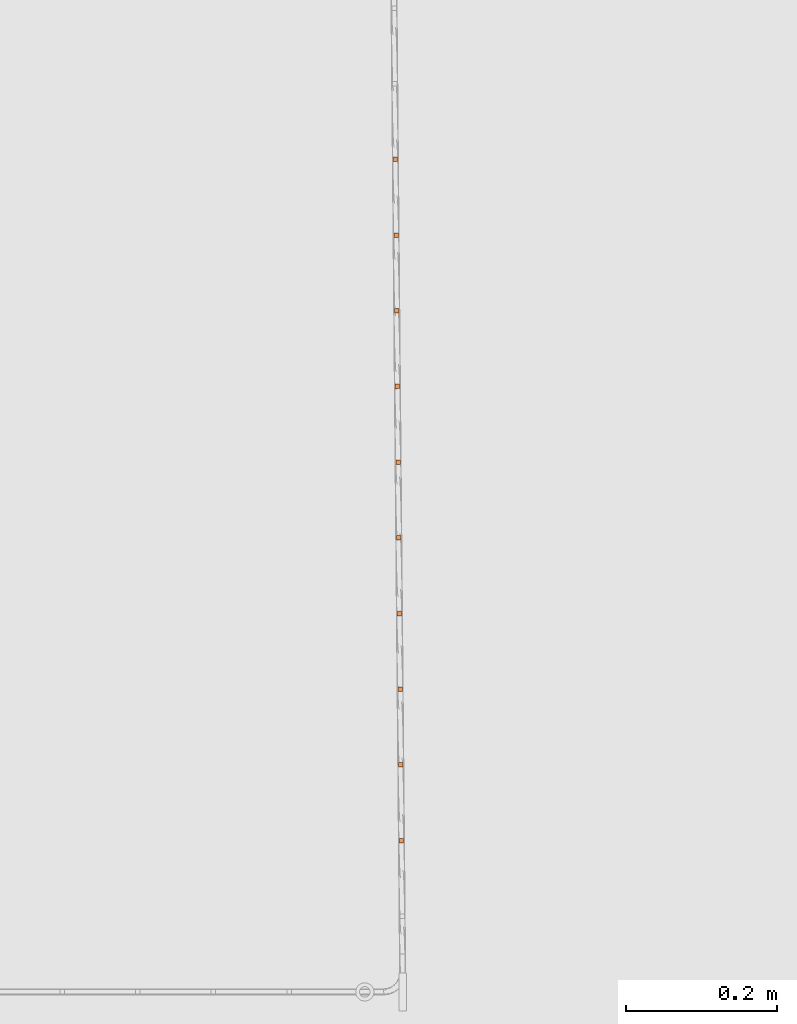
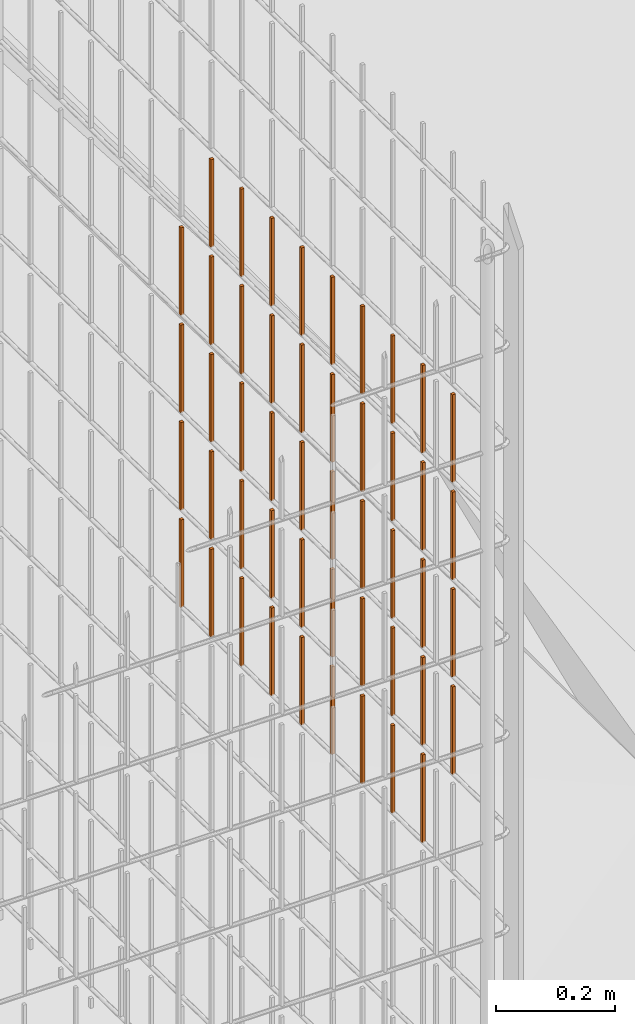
# One storey, part 257 of 1809: 48 proxies, 1 element without a shape of its own.
"""IFC2X3 building model written with IfcOpenShell, lengths in millimetres."""

from ifc_helpers import new_model, entity, si_unit, converted_unit, derived_unit, money_unit, direction, frame, origin_with_axes, place, context, subcontext, project, spatial, faceted_brep, source, transform, mapped, material, type_object, element, aggregate, save


model = new_model("IFC2X3")

# Units and contexts
model_context = context("Model", 3, precision=0.01, world=origin_with_axes(), true_north=direction((0.0, 1.0)))
body_context = subcontext(model_context, "Body", "Model", "MODEL_VIEW")
ifc_project = project(units=[si_unit("LENGTHUNIT", "METRE", prefix="MILLI"), si_unit("AREAUNIT", "SQUARE_METRE"), si_unit("VOLUMEUNIT", "CUBIC_METRE"), converted_unit("PLANEANGLEUNIT", "DEGREE", entity("IfcPlaneAngleMeasure", 0.0174532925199), si_unit("PLANEANGLEUNIT", "RADIAN"), dimensions=[0, 0, 0, 0, 0, 0, 0]), si_unit("SOLIDANGLEUNIT", "STERADIAN"), money_unit("EUR"), converted_unit("TIMEUNIT", "Year", entity("IfcTimeMeasure", 31556926.0), si_unit("TIMEUNIT", "SECOND"), dimensions=[0, 0, 1, 0, 0, 0, 0]), si_unit("MASSUNIT", "GRAM", prefix="KILO"), si_unit("THERMODYNAMICTEMPERATUREUNIT", "DEGREE_CELSIUS"), si_unit("LUMINOUSINTENSITYUNIT", "LUMEN"), si_unit("ENERGYUNIT", "JOULE", prefix="MEGA"), derived_unit("THERMALCONDUCTANCEUNIT", [(si_unit("POWERUNIT", "WATT"), 1), (si_unit("LENGTHUNIT", "METRE"), -1), (si_unit("THERMODYNAMICTEMPERATUREUNIT", "KELVIN"), -1)]), derived_unit("SPECIFICHEATCAPACITYUNIT", [(si_unit("ENERGYUNIT", "JOULE"), 1), (si_unit("MASSUNIT", "GRAM", prefix="KILO"), -1), (si_unit("THERMODYNAMICTEMPERATUREUNIT", "KELVIN"), -1)]), derived_unit("MASSDENSITYUNIT", [(si_unit("MASSUNIT", "GRAM", prefix="KILO"), 1), (si_unit("VOLUMEUNIT", "CUBIC_METRE"), -1)])], contexts=[model_context])

# Site, building, storey
site_placement = place(None, origin_with_axes())
site = spatial("IfcSite", under=ifc_project, at=site_placement, Name="Politse- ja Piirivalveameti ning Päästeameti ühishoone", CompositionType="ELEMENT")
building_placement = place(site_placement, origin_with_axes())
building = spatial("IfcBuilding", under=site, at=building_placement, Name="Politse- ja Piirivalveameti ning Päästeameti ühishoone", CompositionType="ELEMENT")
storey_placement = place(building_placement, origin_with_axes())
storey = spatial("IfcBuildingStorey", under=building, at=storey_placement, Name="Esimene korrus", CompositionType="ELEMENT", Elevation=0.0)

# Proxies
building_element_proxy_type_1 = type_object("IfcBuildingElementProxyType", Name="Railing Type", PredefinedType="NOTDEFINED")
proxy_1_placement = place(storey_placement, frame((-16775.8601056, 25156.7555964, 0.0), z_axis=(0.0, 0.0, 1.0), x_axis=(1.0, 0.0, 0.0)))
proxy_1 = element("IfcBuildingElementProxy", 1, at=proxy_1_placement, inside=storey, type_object=building_element_proxy_type_1, Name="KENNELI PIIRE")
ifc_material = material(Name="Teras - Konstruktsioon")
building_element_proxy_type_2 = type_object("IfcBuildingElementProxyType", Name="IfcBuildingElementProxy", PredefinedType="NOTDEFINED")
shared_shape_1 = source(origin_with_axes(), body_context, "Body", "Brep", [
    faceted_brep([(3.0, 3.0, 0.0), (-3.0, 3.0, 0.0), (-3.0, 3.0, 180.000012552), (3.0, 3.0, 180.000012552), (3.0, -3.0, 0.0), (-3.0, -3.0, 0.0), (-3.0, -3.0, 180.000012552), (3.0, -3.0, 180.000012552)], [[[0, 1, 2, 3]], [[0, 4, 5, 1]], [[1, 5, 6, 2]], [[3, 2, 6, 7]], [[4, 0, 3, 7]], [[5, 4, 7, 6]]]),
])
proxy_2_placement = place(proxy_1_placement, frame((165.264833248, -15768.8521472, 1003.99998745), z_axis=(0.0, 0.0, 1.0), x_axis=(1.0, 0.0, 0.0)))
proxy_2 = element("IfcBuildingElementProxy", 2, at=proxy_2_placement, type_object=building_element_proxy_type_2, material=ifc_material, Name="BALUSTER - 001", context=body_context, shape_type="MappedRepresentation", body=[
    mapped(shared_shape_1, transform((0.0, 0.0, 0.0), x_axis=(0.999960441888, 0.00889464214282, 0.0), y_axis=(-0.00889464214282, 0.999960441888, 0.0), z_axis=(0.0, 0.0, 1.0))),
])
proxy_3_placement = place(proxy_1_placement, frame((164.375369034, -15668.856103, 1003.99998745), z_axis=(0.0, 0.0, 1.0), x_axis=(1.0, 0.0, 0.0)))
proxy_3 = element("IfcBuildingElementProxy", 3, at=proxy_3_placement, type_object=building_element_proxy_type_2, material=ifc_material, Name="BALUSTER - 001", context=body_context, shape_type="MappedRepresentation", body=[
    mapped(shared_shape_1, transform((0.0, 0.0, 0.0), x_axis=(0.999960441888, 0.00889464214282, 0.0), y_axis=(-0.00889464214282, 0.999960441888, 0.0), z_axis=(0.0, 0.0, 1.0))),
])
proxy_4_placement = place(proxy_1_placement, frame((163.48590482, -15568.8600589, 1003.99998745), z_axis=(0.0, 0.0, 1.0), x_axis=(1.0, 0.0, 0.0)))
proxy_4 = element("IfcBuildingElementProxy", 4, at=proxy_4_placement, type_object=building_element_proxy_type_2, material=ifc_material, Name="BALUSTER - 001", context=body_context, shape_type="MappedRepresentation", body=[
    mapped(shared_shape_1, transform((0.0, 0.0, 0.0), x_axis=(0.999960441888, 0.00889464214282, 0.0), y_axis=(-0.00889464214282, 0.999960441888, 0.0), z_axis=(0.0, 0.0, 1.0))),
])
proxy_5_placement = place(proxy_1_placement, frame((162.596440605, -15468.8640147, 1003.99998745), z_axis=(0.0, 0.0, 1.0), x_axis=(1.0, 0.0, 0.0)))
proxy_5 = element("IfcBuildingElementProxy", 5, at=proxy_5_placement, type_object=building_element_proxy_type_2, material=ifc_material, Name="BALUSTER - 001", context=body_context, shape_type="MappedRepresentation", body=[
    mapped(shared_shape_1, transform((0.0, 0.0, 0.0), x_axis=(0.999960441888, 0.00889464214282, 0.0), y_axis=(-0.00889464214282, 0.999960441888, 0.0), z_axis=(0.0, 0.0, 1.0))),
])
proxy_6_placement = place(proxy_1_placement, frame((161.706976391, -15368.8679705, 1003.99998745), z_axis=(0.0, 0.0, 1.0), x_axis=(1.0, 0.0, 0.0)))
proxy_6 = element("IfcBuildingElementProxy", 6, at=proxy_6_placement, type_object=building_element_proxy_type_2, material=ifc_material, Name="BALUSTER - 001", context=body_context, shape_type="MappedRepresentation", body=[
    mapped(shared_shape_1, transform((0.0, 0.0, 0.0), x_axis=(0.999960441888, 0.00889464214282, 0.0), y_axis=(-0.00889464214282, 0.999960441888, 0.0), z_axis=(0.0, 0.0, 1.0))),
])
proxy_7_placement = place(proxy_1_placement, frame((160.817512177, -15268.8719263, 1003.99998745), z_axis=(0.0, 0.0, 1.0), x_axis=(1.0, 0.0, 0.0)))
proxy_7 = element("IfcBuildingElementProxy", 7, at=proxy_7_placement, type_object=building_element_proxy_type_2, material=ifc_material, Name="BALUSTER - 001", context=body_context, shape_type="MappedRepresentation", body=[
    mapped(shared_shape_1, transform((0.0, 0.0, 0.0), x_axis=(0.999960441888, 0.00889464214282, 0.0), y_axis=(-0.00889464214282, 0.999960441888, 0.0), z_axis=(0.0, 0.0, 1.0))),
])
proxy_8_placement = place(proxy_1_placement, frame((159.928047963, -15168.8758821, 1003.99998745), z_axis=(0.0, 0.0, 1.0), x_axis=(1.0, 0.0, 0.0)))
proxy_8 = element("IfcBuildingElementProxy", 8, at=proxy_8_placement, type_object=building_element_proxy_type_2, material=ifc_material, Name="BALUSTER - 001", context=body_context, shape_type="MappedRepresentation", body=[
    mapped(shared_shape_1, transform((0.0, 0.0, 0.0), x_axis=(0.999960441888, 0.00889464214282, 0.0), y_axis=(-0.00889464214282, 0.999960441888, 0.0), z_axis=(0.0, 0.0, 1.0))),
])
proxy_9_placement = place(proxy_1_placement, frame((159.038583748, -15068.8798379, 1003.99998745), z_axis=(0.0, 0.0, 1.0), x_axis=(1.0, 0.0, 0.0)))
proxy_9 = element("IfcBuildingElementProxy", 9, at=proxy_9_placement, type_object=building_element_proxy_type_2, material=ifc_material, Name="BALUSTER - 001", context=body_context, shape_type="MappedRepresentation", body=[
    mapped(shared_shape_1, transform((0.0, 0.0, 0.0), x_axis=(0.999960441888, 0.00889464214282, 0.0), y_axis=(-0.00889464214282, 0.999960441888, 0.0), z_axis=(0.0, 0.0, 1.0))),
])
proxy_10_placement = place(proxy_1_placement, frame((158.149119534, -14968.8837937, 1003.99998745), z_axis=(0.0, 0.0, 1.0), x_axis=(1.0, 0.0, 0.0)))
proxy_10 = element("IfcBuildingElementProxy", 10, at=proxy_10_placement, type_object=building_element_proxy_type_2, material=ifc_material, Name="BALUSTER - 001", context=body_context, shape_type="MappedRepresentation", body=[
    mapped(shared_shape_1, transform((0.0, 0.0, 0.0), x_axis=(0.999960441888, 0.00889464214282, 0.0), y_axis=(-0.00889464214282, 0.999960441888, 0.0), z_axis=(0.0, 0.0, 1.0))),
])
proxy_11_placement = place(proxy_1_placement, frame((159.928047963, -15168.8758821, 1203.99998745), z_axis=(0.0, 0.0, 1.0), x_axis=(1.0, 0.0, 0.0)))
proxy_11 = element("IfcBuildingElementProxy", 11, at=proxy_11_placement, type_object=building_element_proxy_type_2, material=ifc_material, Name="BALUSTER - 001", context=body_context, shape_type="MappedRepresentation", body=[
    mapped(shared_shape_1, transform((0.0, 0.0, 0.0), x_axis=(0.999960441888, 0.00889464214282, 0.0), y_axis=(-0.00889464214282, 0.999960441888, 0.0), z_axis=(0.0, 0.0, 1.0))),
])
proxy_12_placement = place(proxy_1_placement, frame((158.149119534, -14968.8837937, 1203.99998745), z_axis=(0.0, 0.0, 1.0), x_axis=(1.0, 0.0, 0.0)))
proxy_12 = element("IfcBuildingElementProxy", 12, at=proxy_12_placement, type_object=building_element_proxy_type_2, material=ifc_material, Name="BALUSTER - 001", context=body_context, shape_type="MappedRepresentation", body=[
    mapped(shared_shape_1, transform((0.0, 0.0, 0.0), x_axis=(0.999960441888, 0.00889464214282, 0.0), y_axis=(-0.00889464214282, 0.999960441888, 0.0), z_axis=(0.0, 0.0, 1.0))),
])
proxy_13_placement = place(proxy_1_placement, frame((160.817512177, -15268.8719263, 1603.99998745), z_axis=(0.0, 0.0, 1.0), x_axis=(1.0, 0.0, 0.0)))
proxy_13 = element("IfcBuildingElementProxy", 13, at=proxy_13_placement, type_object=building_element_proxy_type_2, material=ifc_material, Name="BALUSTER - 001", context=body_context, shape_type="MappedRepresentation", body=[
    mapped(shared_shape_1, transform((0.0, 0.0, 0.0), x_axis=(0.999960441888, 0.00889464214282, 0.0), y_axis=(-0.00889464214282, 0.999960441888, 0.0), z_axis=(0.0, 0.0, 1.0))),
])
proxy_14_placement = place(proxy_1_placement, frame((159.038583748, -15068.8798379, 1603.99998745), z_axis=(0.0, 0.0, 1.0), x_axis=(1.0, 0.0, 0.0)))
proxy_14 = element("IfcBuildingElementProxy", 14, at=proxy_14_placement, type_object=building_element_proxy_type_2, material=ifc_material, Name="BALUSTER - 001", context=body_context, shape_type="MappedRepresentation", body=[
    mapped(shared_shape_1, transform((0.0, 0.0, 0.0), x_axis=(0.999960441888, 0.00889464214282, 0.0), y_axis=(-0.00889464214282, 0.999960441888, 0.0), z_axis=(0.0, 0.0, 1.0))),
])
shared_shape_2 = source(origin_with_axes(), body_context, "Body", "Brep", [
    faceted_brep([(3.0, 3.0, 0.0), (-3.0, 3.0, 0.0), (-3.0, 3.0, 180.000012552), (3.0, 3.0, 180.000012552), (3.0, -3.0, 0.0), (-3.0, -3.0, 0.0), (-3.0, -3.0, 180.000012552), (3.0, -3.0, 180.000012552)], [[[0, 1, 2, 3]], [[0, 4, 5, 1]], [[1, 5, 6, 2]], [[3, 2, 6, 7]], [[4, 0, 3, 7]], [[5, 4, 7, 6]]]),
])
proxy_15_placement = place(proxy_1_placement, frame((165.264833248, -15768.8521472, 1803.99998745), z_axis=(0.0, 0.0, 1.0), x_axis=(1.0, 0.0, 0.0)))
proxy_15 = element("IfcBuildingElementProxy", 15, at=proxy_15_placement, type_object=building_element_proxy_type_2, material=ifc_material, Name="BALUSTER - 001", context=body_context, shape_type="MappedRepresentation", body=[
    mapped(shared_shape_2, transform((0.0, 0.0, 0.0), x_axis=(0.999960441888, 0.00889464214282, 0.0), y_axis=(-0.00889464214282, 0.999960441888, 0.0), z_axis=(0.0, 0.0, 1.0))),
])
proxy_16_placement = place(proxy_1_placement, frame((164.375369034, -15668.856103, 1803.99998745), z_axis=(0.0, 0.0, 1.0), x_axis=(1.0, 0.0, 0.0)))
proxy_16 = element("IfcBuildingElementProxy", 16, at=proxy_16_placement, type_object=building_element_proxy_type_2, material=ifc_material, Name="BALUSTER - 001", context=body_context, shape_type="MappedRepresentation", body=[
    mapped(shared_shape_2, transform((0.0, 0.0, 0.0), x_axis=(0.999960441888, 0.00889464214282, 0.0), y_axis=(-0.00889464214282, 0.999960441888, 0.0), z_axis=(0.0, 0.0, 1.0))),
])
proxy_17_placement = place(proxy_1_placement, frame((163.48590482, -15568.8600589, 1803.99998745), z_axis=(0.0, 0.0, 1.0), x_axis=(1.0, 0.0, 0.0)))
proxy_17 = element("IfcBuildingElementProxy", 17, at=proxy_17_placement, type_object=building_element_proxy_type_2, material=ifc_material, Name="BALUSTER - 001", context=body_context, shape_type="MappedRepresentation", body=[
    mapped(shared_shape_2, transform((0.0, 0.0, 0.0), x_axis=(0.999960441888, 0.00889464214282, 0.0), y_axis=(-0.00889464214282, 0.999960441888, 0.0), z_axis=(0.0, 0.0, 1.0))),
])
proxy_18_placement = place(proxy_1_placement, frame((162.596440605, -15468.8640147, 1803.99998745), z_axis=(0.0, 0.0, 1.0), x_axis=(1.0, 0.0, 0.0)))
proxy_18 = element("IfcBuildingElementProxy", 18, at=proxy_18_placement, type_object=building_element_proxy_type_2, material=ifc_material, Name="BALUSTER - 001", context=body_context, shape_type="MappedRepresentation", body=[
    mapped(shared_shape_2, transform((0.0, 0.0, 0.0), x_axis=(0.999960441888, 0.00889464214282, 0.0), y_axis=(-0.00889464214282, 0.999960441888, 0.0), z_axis=(0.0, 0.0, 1.0))),
])
shared_shape_3 = source(origin_with_axes(), body_context, "Body", "Brep", [
    faceted_brep([(3.0, 3.0, 0.0), (-3.0, 3.0, 0.0), (-3.0, 3.0, 180.000012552), (3.0, 3.0, 180.000012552), (3.0, -3.0, 0.0), (-3.0, -3.0, 0.0), (-3.0, -3.0, 180.000012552), (3.0, -3.0, 180.000012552)], [[[0, 1, 2, 3]], [[0, 4, 5, 1]], [[1, 5, 6, 2]], [[3, 2, 6, 7]], [[4, 0, 3, 7]], [[5, 4, 7, 6]]]),
])
proxy_19_placement = place(proxy_1_placement, frame((166.154297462, -15868.8481914, 1403.99998745), z_axis=(0.0, 0.0, 1.0), x_axis=(1.0, 0.0, 0.0)))
proxy_19 = element("IfcBuildingElementProxy", 19, at=proxy_19_placement, type_object=building_element_proxy_type_2, material=ifc_material, Name="BALUSTER - 001", context=body_context, shape_type="MappedRepresentation", body=[
    mapped(shared_shape_3, transform((0.0, 0.0, 0.0), x_axis=(0.999960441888, 0.00889464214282, 0.0), y_axis=(-0.00889464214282, 0.999960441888, 0.0), z_axis=(0.0, 0.0, 1.0))),
])
proxy_20_placement = place(proxy_1_placement, frame((165.264833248, -15768.8521472, 1403.99998745), z_axis=(0.0, 0.0, 1.0), x_axis=(1.0, 0.0, 0.0)))
proxy_20 = element("IfcBuildingElementProxy", 20, at=proxy_20_placement, type_object=building_element_proxy_type_2, material=ifc_material, Name="BALUSTER - 001", context=body_context, shape_type="MappedRepresentation", body=[
    mapped(shared_shape_3, transform((0.0, 0.0, 0.0), x_axis=(0.999960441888, 0.00889464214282, 0.0), y_axis=(-0.00889464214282, 0.999960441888, 0.0), z_axis=(0.0, 0.0, 1.0))),
])
proxy_21_placement = place(proxy_1_placement, frame((164.375369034, -15668.856103, 1403.99998745), z_axis=(0.0, 0.0, 1.0), x_axis=(1.0, 0.0, 0.0)))
proxy_21 = element("IfcBuildingElementProxy", 21, at=proxy_21_placement, type_object=building_element_proxy_type_2, material=ifc_material, Name="BALUSTER - 001", context=body_context, shape_type="MappedRepresentation", body=[
    mapped(shared_shape_3, transform((0.0, 0.0, 0.0), x_axis=(0.999960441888, 0.00889464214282, 0.0), y_axis=(-0.00889464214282, 0.999960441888, 0.0), z_axis=(0.0, 0.0, 1.0))),
])
proxy_22_placement = place(proxy_1_placement, frame((163.48590482, -15568.8600589, 1403.99998745), z_axis=(0.0, 0.0, 1.0), x_axis=(1.0, 0.0, 0.0)))
proxy_22 = element("IfcBuildingElementProxy", 22, at=proxy_22_placement, type_object=building_element_proxy_type_2, material=ifc_material, Name="BALUSTER - 001", context=body_context, shape_type="MappedRepresentation", body=[
    mapped(shared_shape_3, transform((0.0, 0.0, 0.0), x_axis=(0.999960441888, 0.00889464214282, 0.0), y_axis=(-0.00889464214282, 0.999960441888, 0.0), z_axis=(0.0, 0.0, 1.0))),
])
proxy_23_placement = place(proxy_1_placement, frame((162.596440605, -15468.8640147, 1403.99998745), z_axis=(0.0, 0.0, 1.0), x_axis=(1.0, 0.0, 0.0)))
proxy_23 = element("IfcBuildingElementProxy", 23, at=proxy_23_placement, type_object=building_element_proxy_type_2, material=ifc_material, Name="BALUSTER - 001", context=body_context, shape_type="MappedRepresentation", body=[
    mapped(shared_shape_3, transform((0.0, 0.0, 0.0), x_axis=(0.999960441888, 0.00889464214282, 0.0), y_axis=(-0.00889464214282, 0.999960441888, 0.0), z_axis=(0.0, 0.0, 1.0))),
])
proxy_24_placement = place(proxy_1_placement, frame((161.706976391, -15368.8679705, 1403.99998745), z_axis=(0.0, 0.0, 1.0), x_axis=(1.0, 0.0, 0.0)))
proxy_24 = element("IfcBuildingElementProxy", 24, at=proxy_24_placement, type_object=building_element_proxy_type_2, material=ifc_material, Name="BALUSTER - 001", context=body_context, shape_type="MappedRepresentation", body=[
    mapped(shared_shape_3, transform((0.0, 0.0, 0.0), x_axis=(0.999960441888, 0.00889464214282, 0.0), y_axis=(-0.00889464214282, 0.999960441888, 0.0), z_axis=(0.0, 0.0, 1.0))),
])
proxy_25_placement = place(proxy_1_placement, frame((160.817512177, -15268.8719263, 1403.99998745), z_axis=(0.0, 0.0, 1.0), x_axis=(1.0, 0.0, 0.0)))
proxy_25 = element("IfcBuildingElementProxy", 25, at=proxy_25_placement, type_object=building_element_proxy_type_2, material=ifc_material, Name="BALUSTER - 001", context=body_context, shape_type="MappedRepresentation", body=[
    mapped(shared_shape_3, transform((0.0, 0.0, 0.0), x_axis=(0.999960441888, 0.00889464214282, 0.0), y_axis=(-0.00889464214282, 0.999960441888, 0.0), z_axis=(0.0, 0.0, 1.0))),
])
proxy_26_placement = place(proxy_1_placement, frame((159.928047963, -15168.8758821, 1403.99998745), z_axis=(0.0, 0.0, 1.0), x_axis=(1.0, 0.0, 0.0)))
proxy_26 = element("IfcBuildingElementProxy", 26, at=proxy_26_placement, type_object=building_element_proxy_type_2, material=ifc_material, Name="BALUSTER - 001", context=body_context, shape_type="MappedRepresentation", body=[
    mapped(shared_shape_3, transform((0.0, 0.0, 0.0), x_axis=(0.999960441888, 0.00889464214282, 0.0), y_axis=(-0.00889464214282, 0.999960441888, 0.0), z_axis=(0.0, 0.0, 1.0))),
])
proxy_27_placement = place(proxy_1_placement, frame((159.038583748, -15068.8798379, 1403.99998745), z_axis=(0.0, 0.0, 1.0), x_axis=(1.0, 0.0, 0.0)))
proxy_27 = element("IfcBuildingElementProxy", 27, at=proxy_27_placement, type_object=building_element_proxy_type_2, material=ifc_material, Name="BALUSTER - 001", context=body_context, shape_type="MappedRepresentation", body=[
    mapped(shared_shape_3, transform((0.0, 0.0, 0.0), x_axis=(0.999960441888, 0.00889464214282, 0.0), y_axis=(-0.00889464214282, 0.999960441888, 0.0), z_axis=(0.0, 0.0, 1.0))),
])
proxy_28_placement = place(proxy_1_placement, frame((158.149119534, -14968.8837937, 1403.99998745), z_axis=(0.0, 0.0, 1.0), x_axis=(1.0, 0.0, 0.0)))
proxy_28 = element("IfcBuildingElementProxy", 28, at=proxy_28_placement, type_object=building_element_proxy_type_2, material=ifc_material, Name="BALUSTER - 001", context=body_context, shape_type="MappedRepresentation", body=[
    mapped(shared_shape_3, transform((0.0, 0.0, 0.0), x_axis=(0.999960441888, 0.00889464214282, 0.0), y_axis=(-0.00889464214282, 0.999960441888, 0.0), z_axis=(0.0, 0.0, 1.0))),
])
shared_shape_4 = source(origin_with_axes(), body_context, "Body", "Brep", [
    faceted_brep([(3.0, 3.0, 0.0), (-3.0, 3.0, 0.0), (-3.0, 3.0, 180.000012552), (3.0, 3.0, 180.000012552), (3.0, -3.0, 0.0), (-3.0, -3.0, 0.0), (-3.0, -3.0, 180.000012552), (3.0, -3.0, 180.000012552)], [[[0, 1, 2, 3]], [[0, 4, 5, 1]], [[1, 5, 6, 2]], [[3, 2, 6, 7]], [[4, 0, 3, 7]], [[5, 4, 7, 6]]]),
])
proxy_29_placement = place(proxy_1_placement, frame((159.038583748, -15068.8798379, 1203.99998745), z_axis=(0.0, 0.0, 1.0), x_axis=(1.0, 0.0, 0.0)))
proxy_29 = element("IfcBuildingElementProxy", 29, at=proxy_29_placement, type_object=building_element_proxy_type_2, material=ifc_material, Name="BALUSTER - 001", context=body_context, shape_type="MappedRepresentation", body=[
    mapped(shared_shape_4, transform((0.0, 0.0, 0.0), x_axis=(0.999960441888, 0.00889464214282, 0.0), y_axis=(-0.00889464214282, 0.999960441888, 0.0), z_axis=(0.0, 0.0, 1.0))),
])
shared_shape_5 = source(origin_with_axes(), body_context, "Body", "Brep", [
    faceted_brep([(3.0, 3.0, 0.0), (-3.0, 3.0, 0.0), (-3.0, 3.0, 180.000012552), (3.0, 3.0, 180.000012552), (3.0, -3.0, 0.0), (-3.0, -3.0, 0.0), (-3.0, -3.0, 180.000012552), (3.0, -3.0, 180.000012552)], [[[0, 1, 2, 3]], [[0, 4, 5, 1]], [[1, 5, 6, 2]], [[3, 2, 6, 7]], [[4, 0, 3, 7]], [[5, 4, 7, 6]]]),
])
proxy_30_placement = place(proxy_1_placement, frame((166.154297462, -15868.8481914, 1203.99998745), z_axis=(0.0, 0.0, 1.0), x_axis=(1.0, 0.0, 0.0)))
proxy_30 = element("IfcBuildingElementProxy", 30, at=proxy_30_placement, type_object=building_element_proxy_type_2, material=ifc_material, Name="BALUSTER - 001", context=body_context, shape_type="MappedRepresentation", body=[
    mapped(shared_shape_5, transform((0.0, 0.0, 0.0), x_axis=(0.999960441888, 0.00889464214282, 0.0), y_axis=(-0.00889464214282, 0.999960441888, 0.0), z_axis=(0.0, 0.0, 1.0))),
])
proxy_31_placement = place(proxy_1_placement, frame((165.264833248, -15768.8521472, 1203.99998745), z_axis=(0.0, 0.0, 1.0), x_axis=(1.0, 0.0, 0.0)))
proxy_31 = element("IfcBuildingElementProxy", 31, at=proxy_31_placement, type_object=building_element_proxy_type_2, material=ifc_material, Name="BALUSTER - 001", context=body_context, shape_type="MappedRepresentation", body=[
    mapped(shared_shape_5, transform((0.0, 0.0, 0.0), x_axis=(0.999960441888, 0.00889464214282, 0.0), y_axis=(-0.00889464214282, 0.999960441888, 0.0), z_axis=(0.0, 0.0, 1.0))),
])
proxy_32_placement = place(proxy_1_placement, frame((163.48590482, -15568.8600589, 1203.99998745), z_axis=(0.0, 0.0, 1.0), x_axis=(1.0, 0.0, 0.0)))
proxy_32 = element("IfcBuildingElementProxy", 32, at=proxy_32_placement, type_object=building_element_proxy_type_2, material=ifc_material, Name="BALUSTER - 001", context=body_context, shape_type="MappedRepresentation", body=[
    mapped(shared_shape_5, transform((0.0, 0.0, 0.0), x_axis=(0.999960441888, 0.00889464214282, 0.0), y_axis=(-0.00889464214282, 0.999960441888, 0.0), z_axis=(0.0, 0.0, 1.0))),
])
proxy_33_placement = place(proxy_1_placement, frame((162.596440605, -15468.8640147, 1203.99998745), z_axis=(0.0, 0.0, 1.0), x_axis=(1.0, 0.0, 0.0)))
proxy_33 = element("IfcBuildingElementProxy", 33, at=proxy_33_placement, type_object=building_element_proxy_type_2, material=ifc_material, Name="BALUSTER - 001", context=body_context, shape_type="MappedRepresentation", body=[
    mapped(shared_shape_5, transform((0.0, 0.0, 0.0), x_axis=(0.999960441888, 0.00889464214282, 0.0), y_axis=(-0.00889464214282, 0.999960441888, 0.0), z_axis=(0.0, 0.0, 1.0))),
])
proxy_34_placement = place(proxy_1_placement, frame((161.706976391, -15368.8679705, 1203.99998745), z_axis=(0.0, 0.0, 1.0), x_axis=(1.0, 0.0, 0.0)))
proxy_34 = element("IfcBuildingElementProxy", 34, at=proxy_34_placement, type_object=building_element_proxy_type_2, material=ifc_material, Name="BALUSTER - 001", context=body_context, shape_type="MappedRepresentation", body=[
    mapped(shared_shape_5, transform((0.0, 0.0, 0.0), x_axis=(0.999960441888, 0.00889464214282, 0.0), y_axis=(-0.00889464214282, 0.999960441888, 0.0), z_axis=(0.0, 0.0, 1.0))),
])
proxy_35_placement = place(proxy_1_placement, frame((160.817512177, -15268.8719263, 1203.99998745), z_axis=(0.0, 0.0, 1.0), x_axis=(1.0, 0.0, 0.0)))
proxy_35 = element("IfcBuildingElementProxy", 35, at=proxy_35_placement, type_object=building_element_proxy_type_2, material=ifc_material, Name="BALUSTER - 001", context=body_context, shape_type="MappedRepresentation", body=[
    mapped(shared_shape_5, transform((0.0, 0.0, 0.0), x_axis=(0.999960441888, 0.00889464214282, 0.0), y_axis=(-0.00889464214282, 0.999960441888, 0.0), z_axis=(0.0, 0.0, 1.0))),
])
shared_shape_6 = source(origin_with_axes(), body_context, "Body", "Brep", [
    faceted_brep([(3.0, 3.0, 0.0), (-3.0, 3.0, 0.0), (-3.0, 3.0, 180.000012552), (3.0, 3.0, 180.000012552), (3.0, -3.0, 0.0), (-3.0, -3.0, 0.0), (-3.0, -3.0, 180.000012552), (3.0, -3.0, 180.000012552)], [[[0, 1, 2, 3]], [[0, 4, 5, 1]], [[1, 5, 6, 2]], [[3, 2, 6, 7]], [[4, 0, 3, 7]], [[5, 4, 7, 6]]]),
])
proxy_36_placement = place(proxy_1_placement, frame((166.154297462, -15868.8481914, 1603.99998745), z_axis=(0.0, 0.0, 1.0), x_axis=(1.0, 0.0, 0.0)))
proxy_36 = element("IfcBuildingElementProxy", 36, at=proxy_36_placement, type_object=building_element_proxy_type_2, material=ifc_material, Name="BALUSTER - 001", context=body_context, shape_type="MappedRepresentation", body=[
    mapped(shared_shape_6, transform((0.0, 0.0, 0.0), x_axis=(0.999960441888, 0.00889464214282, 0.0), y_axis=(-0.00889464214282, 0.999960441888, 0.0), z_axis=(0.0, 0.0, 1.0))),
])
proxy_37_placement = place(proxy_1_placement, frame((165.264833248, -15768.8521472, 1603.99998745), z_axis=(0.0, 0.0, 1.0), x_axis=(1.0, 0.0, 0.0)))
proxy_37 = element("IfcBuildingElementProxy", 37, at=proxy_37_placement, type_object=building_element_proxy_type_2, material=ifc_material, Name="BALUSTER - 001", context=body_context, shape_type="MappedRepresentation", body=[
    mapped(shared_shape_6, transform((0.0, 0.0, 0.0), x_axis=(0.999960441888, 0.00889464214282, 0.0), y_axis=(-0.00889464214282, 0.999960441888, 0.0), z_axis=(0.0, 0.0, 1.0))),
])
proxy_38_placement = place(proxy_1_placement, frame((163.48590482, -15568.8600589, 1603.99998745), z_axis=(0.0, 0.0, 1.0), x_axis=(1.0, 0.0, 0.0)))
proxy_38 = element("IfcBuildingElementProxy", 38, at=proxy_38_placement, type_object=building_element_proxy_type_2, material=ifc_material, Name="BALUSTER - 001", context=body_context, shape_type="MappedRepresentation", body=[
    mapped(shared_shape_6, transform((0.0, 0.0, 0.0), x_axis=(0.999960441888, 0.00889464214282, 0.0), y_axis=(-0.00889464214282, 0.999960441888, 0.0), z_axis=(0.0, 0.0, 1.0))),
])
proxy_39_placement = place(proxy_1_placement, frame((162.596440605, -15468.8640147, 1603.99998745), z_axis=(0.0, 0.0, 1.0), x_axis=(1.0, 0.0, 0.0)))
proxy_39 = element("IfcBuildingElementProxy", 39, at=proxy_39_placement, type_object=building_element_proxy_type_2, material=ifc_material, Name="BALUSTER - 001", context=body_context, shape_type="MappedRepresentation", body=[
    mapped(shared_shape_6, transform((0.0, 0.0, 0.0), x_axis=(0.999960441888, 0.00889464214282, 0.0), y_axis=(-0.00889464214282, 0.999960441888, 0.0), z_axis=(0.0, 0.0, 1.0))),
])
proxy_40_placement = place(proxy_1_placement, frame((161.706976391, -15368.8679705, 1603.99998745), z_axis=(0.0, 0.0, 1.0), x_axis=(1.0, 0.0, 0.0)))
proxy_40 = element("IfcBuildingElementProxy", 40, at=proxy_40_placement, type_object=building_element_proxy_type_2, material=ifc_material, Name="BALUSTER - 001", context=body_context, shape_type="MappedRepresentation", body=[
    mapped(shared_shape_6, transform((0.0, 0.0, 0.0), x_axis=(0.999960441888, 0.00889464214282, 0.0), y_axis=(-0.00889464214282, 0.999960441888, 0.0), z_axis=(0.0, 0.0, 1.0))),
])
proxy_41_placement = place(proxy_1_placement, frame((159.928047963, -15168.8758821, 1603.99998745), z_axis=(0.0, 0.0, 1.0), x_axis=(1.0, 0.0, 0.0)))
proxy_41 = element("IfcBuildingElementProxy", 41, at=proxy_41_placement, type_object=building_element_proxy_type_2, material=ifc_material, Name="BALUSTER - 001", context=body_context, shape_type="MappedRepresentation", body=[
    mapped(shared_shape_6, transform((0.0, 0.0, 0.0), x_axis=(0.999960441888, 0.00889464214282, 0.0), y_axis=(-0.00889464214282, 0.999960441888, 0.0), z_axis=(0.0, 0.0, 1.0))),
])
proxy_42_placement = place(proxy_1_placement, frame((158.149119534, -14968.8837937, 1603.99998745), z_axis=(0.0, 0.0, 1.0), x_axis=(1.0, 0.0, 0.0)))
proxy_42 = element("IfcBuildingElementProxy", 42, at=proxy_42_placement, type_object=building_element_proxy_type_2, material=ifc_material, Name="BALUSTER - 001", context=body_context, shape_type="MappedRepresentation", body=[
    mapped(shared_shape_6, transform((0.0, 0.0, 0.0), x_axis=(0.999960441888, 0.00889464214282, 0.0), y_axis=(-0.00889464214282, 0.999960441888, 0.0), z_axis=(0.0, 0.0, 1.0))),
])
shared_shape_7 = source(origin_with_axes(), body_context, "Body", "Brep", [
    faceted_brep([(3.0, 3.0, 0.0), (-3.0, 3.0, 0.0), (-3.0, 3.0, 180.000012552), (3.0, 3.0, 180.000012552), (3.0, -3.0, 0.0), (-3.0, -3.0, 0.0), (-3.0, -3.0, 180.000012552), (3.0, -3.0, 180.000012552)], [[[0, 1, 2, 3]], [[0, 4, 5, 1]], [[1, 5, 6, 2]], [[3, 2, 6, 7]], [[4, 0, 3, 7]], [[5, 4, 7, 6]]]),
])
proxy_43_placement = place(proxy_1_placement, frame((160.817512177, -15268.8719263, 1803.99998745), z_axis=(0.0, 0.0, 1.0), x_axis=(1.0, 0.0, 0.0)))
proxy_43 = element("IfcBuildingElementProxy", 43, at=proxy_43_placement, type_object=building_element_proxy_type_2, material=ifc_material, Name="BALUSTER - 001", context=body_context, shape_type="MappedRepresentation", body=[
    mapped(shared_shape_7, transform((0.0, 0.0, 0.0), x_axis=(0.999960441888, 0.00889464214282, 0.0), y_axis=(-0.00889464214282, 0.999960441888, 0.0), z_axis=(0.0, 0.0, 1.0))),
])
proxy_44_placement = place(proxy_1_placement, frame((159.928047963, -15168.8758821, 1803.99998745), z_axis=(0.0, 0.0, 1.0), x_axis=(1.0, 0.0, 0.0)))
proxy_44 = element("IfcBuildingElementProxy", 44, at=proxy_44_placement, type_object=building_element_proxy_type_2, material=ifc_material, Name="BALUSTER - 001", context=body_context, shape_type="MappedRepresentation", body=[
    mapped(shared_shape_7, transform((0.0, 0.0, 0.0), x_axis=(0.999960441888, 0.00889464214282, 0.0), y_axis=(-0.00889464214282, 0.999960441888, 0.0), z_axis=(0.0, 0.0, 1.0))),
])
shared_shape_8 = source(origin_with_axes(), body_context, "Body", "Brep", [
    faceted_brep([(3.0, 3.0, 0.0), (-3.0, 3.0, 0.0), (-3.0, 3.0, 180.000012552), (3.0, 3.0, 180.000012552), (3.0, -3.0, 0.0), (-3.0, -3.0, 0.0), (-3.0, -3.0, 180.000012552), (3.0, -3.0, 180.000012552)], [[[0, 1, 2, 3]], [[0, 4, 5, 1]], [[1, 5, 6, 2]], [[3, 2, 6, 7]], [[4, 0, 3, 7]], [[5, 4, 7, 6]]]),
])
proxy_45_placement = place(proxy_1_placement, frame((159.038583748, -15068.8798379, 1803.99998745), z_axis=(0.0, 0.0, 1.0), x_axis=(1.0, 0.0, 0.0)))
proxy_45 = element("IfcBuildingElementProxy", 45, at=proxy_45_placement, type_object=building_element_proxy_type_2, material=ifc_material, Name="BALUSTER - 001", context=body_context, shape_type="MappedRepresentation", body=[
    mapped(shared_shape_8, transform((0.0, 0.0, 0.0), x_axis=(0.999960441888, 0.00889464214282, 0.0), y_axis=(-0.00889464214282, 0.999960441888, 0.0), z_axis=(0.0, 0.0, 1.0))),
])
shared_shape_9 = source(origin_with_axes(), body_context, "Body", "Brep", [
    faceted_brep([(3.0, 3.0, 0.0), (-3.0, 3.0, 0.0), (-3.0, 3.0, 180.000012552), (3.0, 3.0, 180.000012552), (3.0, -3.0, 0.0), (-3.0, -3.0, 0.0), (-3.0, -3.0, 180.000012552), (3.0, -3.0, 180.000012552)], [[[0, 1, 2, 3]], [[0, 4, 5, 1]], [[1, 5, 6, 2]], [[3, 2, 6, 7]], [[4, 0, 3, 7]], [[5, 4, 7, 6]]]),
])
proxy_46_placement = place(proxy_1_placement, frame((164.375369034, -15668.856103, 1203.99998745), z_axis=(0.0, 0.0, 1.0), x_axis=(1.0, 0.0, 0.0)))
proxy_46 = element("IfcBuildingElementProxy", 46, at=proxy_46_placement, type_object=building_element_proxy_type_2, material=ifc_material, Name="BALUSTER - 001", context=body_context, shape_type="MappedRepresentation", body=[
    mapped(shared_shape_9, transform((0.0, 0.0, 0.0), x_axis=(0.999960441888, 0.00889464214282, 0.0), y_axis=(-0.00889464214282, 0.999960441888, 0.0), z_axis=(0.0, 0.0, 1.0))),
])
shared_shape_10 = source(origin_with_axes(), body_context, "Body", "Brep", [
    faceted_brep([(3.0, 3.0, 0.0), (-3.0, 3.0, 0.0), (-3.0, 3.0, 180.000012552), (3.0, 3.0, 180.000012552), (3.0, -3.0, 0.0), (-3.0, -3.0, 0.0), (-3.0, -3.0, 180.000012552), (3.0, -3.0, 180.000012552)], [[[0, 1, 2, 3]], [[0, 4, 5, 1]], [[1, 5, 6, 2]], [[3, 2, 6, 7]], [[4, 0, 3, 7]], [[5, 4, 7, 6]]]),
])
proxy_47_placement = place(proxy_1_placement, frame((164.375369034, -15668.856103, 1603.99998745), z_axis=(0.0, 0.0, 1.0), x_axis=(1.0, 0.0, 0.0)))
proxy_47 = element("IfcBuildingElementProxy", 47, at=proxy_47_placement, type_object=building_element_proxy_type_2, material=ifc_material, Name="BALUSTER - 001", context=body_context, shape_type="MappedRepresentation", body=[
    mapped(shared_shape_10, transform((0.0, 0.0, 0.0), x_axis=(0.999960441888, 0.00889464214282, 0.0), y_axis=(-0.00889464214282, 0.999960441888, 0.0), z_axis=(0.0, 0.0, 1.0))),
])
shared_shape_11 = source(origin_with_axes(), body_context, "Body", "Brep", [
    faceted_brep([(3.0, 3.0, 0.0), (-3.0, 3.0, 0.0), (-3.0, 3.0, 180.000012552), (3.0, 3.0, 180.000012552), (3.0, -3.0, 0.0), (-3.0, -3.0, 0.0), (-3.0, -3.0, 180.000012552), (3.0, -3.0, 180.000012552)], [[[0, 1, 2, 3]], [[0, 4, 5, 1]], [[1, 5, 6, 2]], [[3, 2, 6, 7]], [[4, 0, 3, 7]], [[5, 4, 7, 6]]]),
])
proxy_48_placement = place(proxy_1_placement, frame((166.154297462, -15868.8481914, 1803.99998745), z_axis=(0.0, 0.0, 1.0), x_axis=(1.0, 0.0, 0.0)))
proxy_48 = element("IfcBuildingElementProxy", 48, at=proxy_48_placement, type_object=building_element_proxy_type_2, material=ifc_material, Name="BALUSTER - 001", context=body_context, shape_type="MappedRepresentation", body=[
    mapped(shared_shape_11, transform((0.0, 0.0, 0.0), x_axis=(0.999960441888, 0.00889464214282, 0.0), y_axis=(-0.00889464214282, 0.999960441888, 0.0), z_axis=(0.0, 0.0, 1.0))),
])
proxy_49_placement = place(proxy_1_placement, frame((161.706976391, -15368.8679705, 1803.99998745), z_axis=(0.0, 0.0, 1.0), x_axis=(1.0, 0.0, 0.0)))
proxy_49 = element("IfcBuildingElementProxy", 49, at=proxy_49_placement, type_object=building_element_proxy_type_2, material=ifc_material, Name="BALUSTER - 001", context=body_context, shape_type="MappedRepresentation", body=[
    mapped(shared_shape_11, transform((0.0, 0.0, 0.0), x_axis=(0.999960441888, 0.00889464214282, 0.0), y_axis=(-0.00889464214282, 0.999960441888, 0.0), z_axis=(0.0, 0.0, 1.0))),
])
aggregate(proxy_1, [proxy_2, proxy_3, proxy_4, proxy_5, proxy_6, proxy_7, proxy_8, proxy_9, proxy_10, proxy_30, proxy_31, proxy_46, proxy_32, proxy_33, proxy_34, proxy_35, proxy_11, proxy_29, proxy_12, proxy_19, proxy_20, proxy_21, proxy_22, proxy_23, proxy_24, proxy_25, proxy_26, proxy_27, proxy_28, proxy_36, proxy_37, proxy_47, proxy_38, proxy_39, proxy_40, proxy_13, proxy_41, proxy_14, proxy_42, proxy_48, proxy_15, proxy_16, proxy_17, proxy_18, proxy_49, proxy_43, proxy_44, proxy_45])

save(model, "model.ifc")
